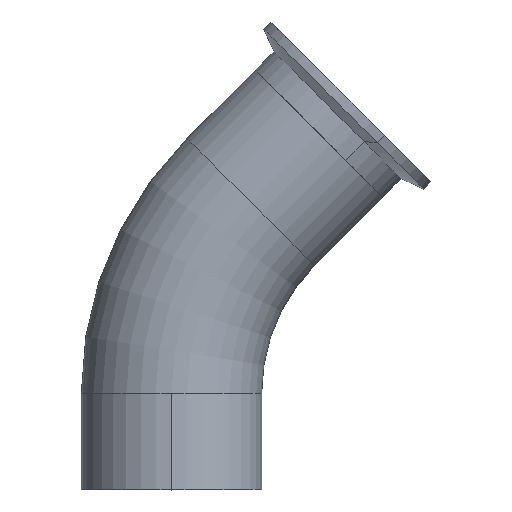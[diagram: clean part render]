
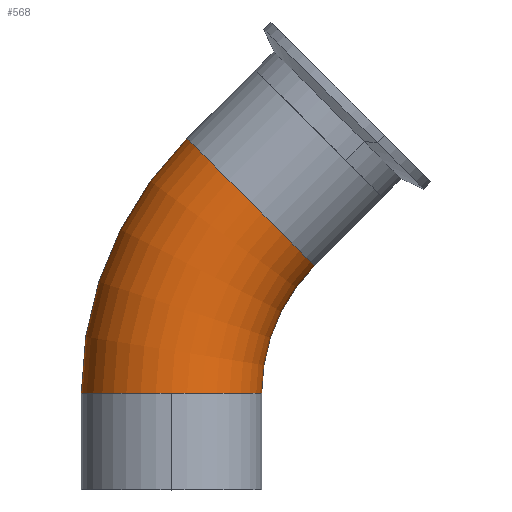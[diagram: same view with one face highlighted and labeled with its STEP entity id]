
A CAD part, top view. The second image highlights one B-rep face of the part: STEP entity #568.
In plain terms, the highlighted toroidal (fillet/blend) face has major radius 76.2 mm and minor radius 25.4 mm.
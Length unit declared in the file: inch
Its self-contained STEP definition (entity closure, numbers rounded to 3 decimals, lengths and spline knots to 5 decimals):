
#32 = DIRECTION ( 'NONE',  ( 1., 0., 0. ) ) ;
#70 = DIRECTION ( 'NONE',  ( -1., 0., 0. ) ) ;
#71 = DIRECTION ( 'NONE',  ( 0., 0., 1. ) ) ;
#75 = ORIENTED_EDGE ( 'NONE', *, *, #234, .T. ) ;
#76 = CIRCLE ( 'NONE', #178, 1. ) ;
#99 = VERTEX_POINT ( 'NONE', #330 ) ;
#134 = VERTEX_POINT ( 'NONE', #325 ) ;
#150 = CARTESIAN_POINT ( 'NONE',  ( 2.60665, 4.41619, 4.39469 ) ) ;
#152 = VERTEX_POINT ( 'NONE', #484 ) ;
#168 = AXIS2_PLACEMENT_3D ( 'NONE', #232, #794, #312 ) ;
#175 = AXIS2_PLACEMENT_3D ( 'NONE', #1017, #544, #70 ) ;
#178 = AXIS2_PLACEMENT_3D ( 'NONE', #309, #875, #384 ) ;
#186 = AXIS2_PLACEMENT_3D ( 'NONE', #489, #71, #32 ) ;
#196 = AXIS2_PLACEMENT_3D ( 'NONE', #150, #315, #938 ) ;
#226 = EDGE_CURVE ( 'NONE', #678, #152, #496, .T. ) ;
#232 = CARTESIAN_POINT ( 'NONE',  ( 4.72797, 2.29487, 4.39469 ) ) ;
#234 = EDGE_CURVE ( 'NONE', #678, #417, #722, .T. ) ;
#240 = EDGE_CURVE ( 'NONE', #417, #134, #76, .T. ) ;
#242 = EDGE_CURVE ( 'NONE', #134, #99, #701, .T. ) ;
#246 = EDGE_CURVE ( 'NONE', #152, #99, #256, .T. ) ;
#255 = ORIENTED_EDGE ( 'NONE', *, *, #226, .F. ) ;
#256 = CIRCLE ( 'NONE', #168, 2. ) ;
#309 = CARTESIAN_POINT ( 'NONE',  ( 1.72797, 2.29487, 4.39469 ) ) ;
#312 = DIRECTION ( 'NONE',  ( 1., 0., 0. ) ) ;
#315 = DIRECTION ( 'NONE',  ( 0.707, 0.707, 0. ) ) ;
#325 = CARTESIAN_POINT ( 'NONE',  ( 1.72797, 2.29487, 5.39469 ) ) ;
#330 = CARTESIAN_POINT ( 'NONE',  ( 2.72797, 2.29487, 4.39469 ) ) ;
#384 = DIRECTION ( 'NONE',  ( -1., 0., 0. ) ) ;
#417 = VERTEX_POINT ( 'NONE', #526 ) ;
#484 = CARTESIAN_POINT ( 'NONE',  ( 3.31376, 3.70909, 4.39469 ) ) ;
#489 = CARTESIAN_POINT ( 'NONE',  ( 4.72797, 2.29487, 4.39469 ) ) ;
#496 = CIRCLE ( 'NONE', #196, 1. ) ;
#526 = CARTESIAN_POINT ( 'NONE',  ( 0.72797, 2.29487, 4.39469 ) ) ;
#544 = DIRECTION ( 'NONE',  ( 0., 1., 0. ) ) ;
#568 = ADVANCED_FACE ( 'NONE', ( #954 ), #757, .T. ) ;
#673 = ORIENTED_EDGE ( 'NONE', *, *, #242, .T. ) ;
#678 = VERTEX_POINT ( 'NONE', #989 ) ;
#701 = CIRCLE ( 'NONE', #175, 1. ) ;
#704 = CARTESIAN_POINT ( 'NONE',  ( 4.72797, 2.29487, 4.39469 ) ) ;
#721 = ORIENTED_EDGE ( 'NONE', *, *, #240, .T. ) ;
#722 = CIRCLE ( 'NONE', #186, 4. ) ;
#757 = TOROIDAL_SURFACE ( 'NONE', #979, 3., 1. ) ;
#794 = DIRECTION ( 'NONE',  ( 0., 0., 1. ) ) ;
#858 = DIRECTION ( 'NONE',  ( 0., 0., 1. ) ) ;
#875 = DIRECTION ( 'NONE',  ( 0., 1., 0. ) ) ;
#878 = EDGE_LOOP ( 'NONE', ( #255, #75, #721, #673, #927 ) ) ;
#927 = ORIENTED_EDGE ( 'NONE', *, *, #246, .F. ) ;
#938 = DIRECTION ( 'NONE',  ( -0.707, 0.707, 0. ) ) ;
#954 = FACE_OUTER_BOUND ( 'NONE', #878, .T. ) ;
#979 = AXIS2_PLACEMENT_3D ( 'NONE', #704, #858, #1000 ) ;
#989 = CARTESIAN_POINT ( 'NONE',  ( 1.89955, 5.1233, 4.39469 ) ) ;
#1000 = DIRECTION ( 'NONE',  ( 1., 0., 0. ) ) ;
#1017 = CARTESIAN_POINT ( 'NONE',  ( 1.72797, 2.29487, 4.39469 ) ) ;
